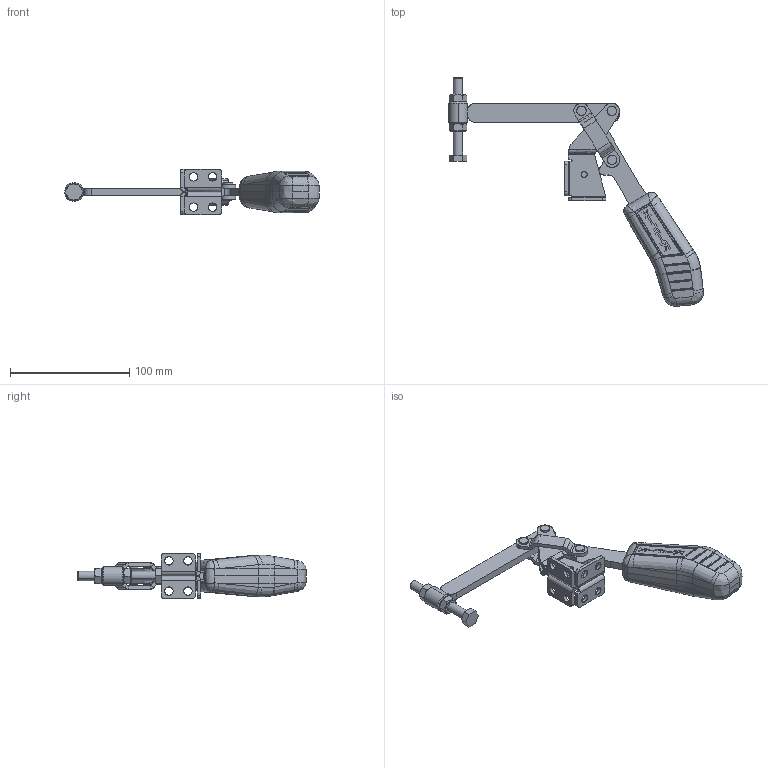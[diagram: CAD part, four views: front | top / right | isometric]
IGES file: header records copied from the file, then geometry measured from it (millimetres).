
Start section: SolidWorks IGES file using analytic representation for surfaces
Global section: file name: C:\Projetos\Grampos\KF-718\KF-718 DS\KF-718 DS.IGS; native system: SolidWorks 2013; preprocessor: SolidWorks 2013; author: Ricardo; date: 140801.111525; units: millimetre
Bounding box: 214.06 x 192.13 x 38 mm (x, y, z)
Surface area: 53148.1 mm2 (no closed solid volume)
Topology: 0 solids, 0 shells, 755 faces, 8049 edges, 8018 vertices
Faces by surface type: bspline 465, revolution 290
